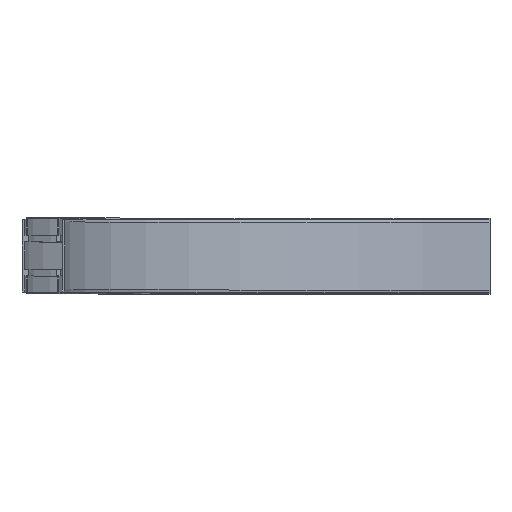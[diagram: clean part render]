
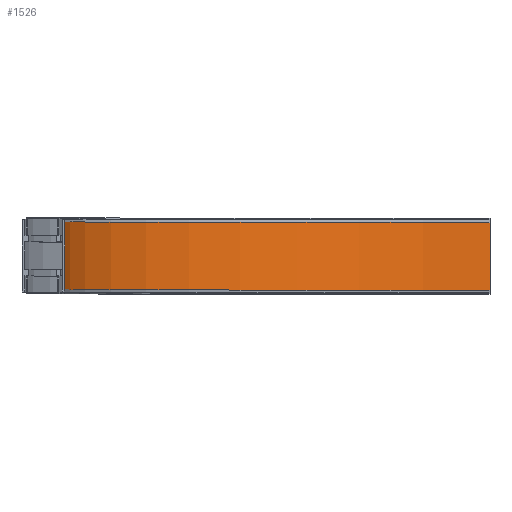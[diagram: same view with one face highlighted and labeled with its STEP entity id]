
A CAD part, top view. The second image highlights one B-rep face of the part: STEP entity #1526.
In plain terms, the highlighted cylindrical face has radius 817.5 mm (diameter 1635 mm), a partial arc.
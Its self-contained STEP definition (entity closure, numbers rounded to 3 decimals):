
#80=CYLINDRICAL_SURFACE('',#1643,817.5);
#149=FACE_OUTER_BOUND('',#236,.T.);
#236=EDGE_LOOP('',(#1052,#1053,#1054,#1055));
#323=CIRCLE('',#1633,817.5);
#328=CIRCLE('',#1642,817.5);
#400=LINE('',#2215,#526);
#401=LINE('',#2216,#527);
#526=VECTOR('',#1808,10.);
#527=VECTOR('',#1809,10.);
#643=VERTEX_POINT('',#2183);
#644=VERTEX_POINT('',#2185);
#652=VERTEX_POINT('',#2209);
#653=VERTEX_POINT('',#2211);
#799=EDGE_CURVE('',#643,#644,#323,.T.);
#813=EDGE_CURVE('',#652,#653,#328,.T.);
#814=EDGE_CURVE('',#643,#652,#400,.T.);
#815=EDGE_CURVE('',#644,#653,#401,.T.);
#1052=ORIENTED_EDGE('',*,*,#814,.T.);
#1053=ORIENTED_EDGE('',*,*,#813,.T.);
#1054=ORIENTED_EDGE('',*,*,#815,.F.);
#1055=ORIENTED_EDGE('',*,*,#799,.F.);
#1526=ADVANCED_FACE('',(#149),#80,.F.);
#1633=AXIS2_PLACEMENT_3D('',#2186,#1777,#1778);
#1642=AXIS2_PLACEMENT_3D('',#2213,#1804,#1805);
#1643=AXIS2_PLACEMENT_3D('',#2214,#1806,#1807);
#1777=DIRECTION('center_axis',(0.,1.,0.));
#1778=DIRECTION('ref_axis',(0.,0.,-1.));
#1804=DIRECTION('center_axis',(0.,1.,0.));
#1805=DIRECTION('ref_axis',(0.,0.,-1.));
#1806=DIRECTION('center_axis',(0.,1.,0.));
#1807=DIRECTION('ref_axis',(0.,0.,-1.));
#1808=DIRECTION('',(0.,1.,0.));
#1809=DIRECTION('',(0.,1.,0.));
#2183=CARTESIAN_POINT('',(0.,-65.,42.5));
#2185=CARTESIAN_POINT('',(-817.5,-65.,860.));
#2186=CARTESIAN_POINT('Origin',(0.,-65.,860.));
#2209=CARTESIAN_POINT('',(0.,65.,42.5));
#2211=CARTESIAN_POINT('',(-817.5,65.,860.));
#2213=CARTESIAN_POINT('Origin',(0.,65.,860.));
#2214=CARTESIAN_POINT('Origin',(0.,0.,860.));
#2215=CARTESIAN_POINT('',(0.,-65.,42.5));
#2216=CARTESIAN_POINT('',(-817.5,-65.,860.));
